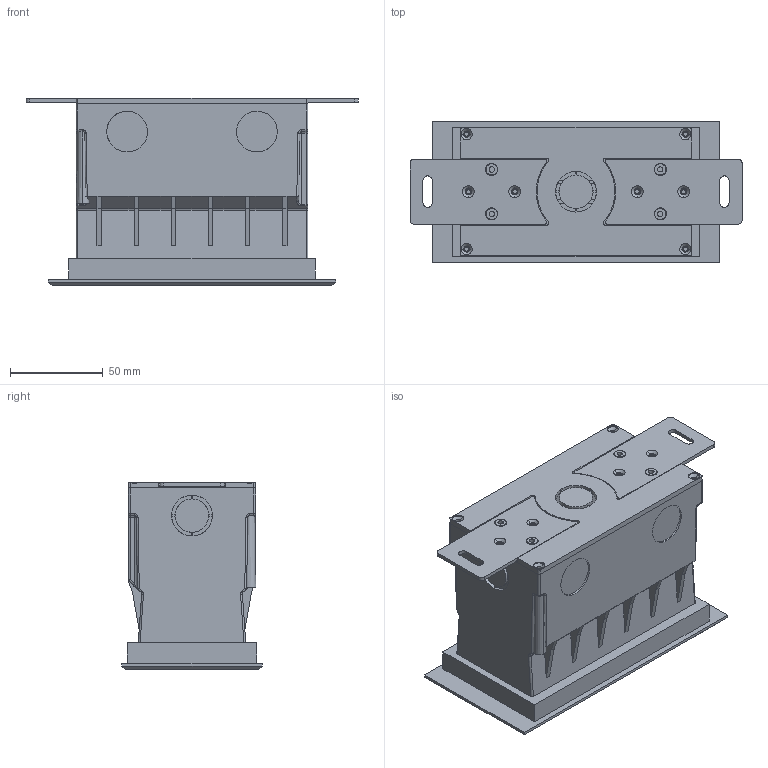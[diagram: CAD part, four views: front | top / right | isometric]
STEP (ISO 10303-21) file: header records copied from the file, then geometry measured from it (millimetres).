
FILE_DESCRIPTION((''),'2;1');
FILE_NAME('D1CB1834_ASM','2018-01-11T',('Administrator'),(''),'PRO/ENGINEER BY PARAMETRIC TECHNOLOGY CORPORATION, 2009440','PRO/ENGINEER BY PARAMETRIC TECHNOLOGY CORPORATION, 2009440','');
FILE_SCHEMA(('CONFIG_CONTROL_DESIGN'));
Products named in the file (13): MSBR-27; MSBR-2; MSBR-278; MSBR-120; 1BA-HOUGAI3; 1CA-MZH; 1CA-MZHHOUGAI; 1CAYUMAITONG; HOUGAIGUDINGBAN2; 1CA-YUMAITONGHOUGAI; 13652_1; 105896; D1CB1834_ASM
Assembly tree (17 placements, depth 2):
  D1CB1834_ASM
    MSBR-27
    MSBR-2
    MSBR-278
    MSBR-120  x6
    1BA-HOUGAI3
    1CA-MZH
    1CA-MZHHOUGAI
    1CAYUMAITONG
    HOUGAIGUDINGBAN2
    1CA-YUMAITONGHOUGAI
    13652_1
    105896
Bounding box: 179.09 x 76 x 101.2 mm (x, y, z)
Volume: 110192.1 mm3; surface area: 219365.5 mm2
Topology: 15 solids, 28 shells, 3022 faces, 8177 edges, 5274 vertices
Faces by surface type: plane 1592, cylinder 910, bspline 165, cone 130, torus 118, sphere 102, revolution 5
Entity records: 99643 total; most frequent: CARTESIAN_POINT 30512, ORIENTED_EDGE 14568, DIRECTION 13873, EDGE_CURVE 7411, VECTOR 4910, LINE 4910, VERTEX_POINT 4839, AXIS2_PLACEMENT_3D 4479
